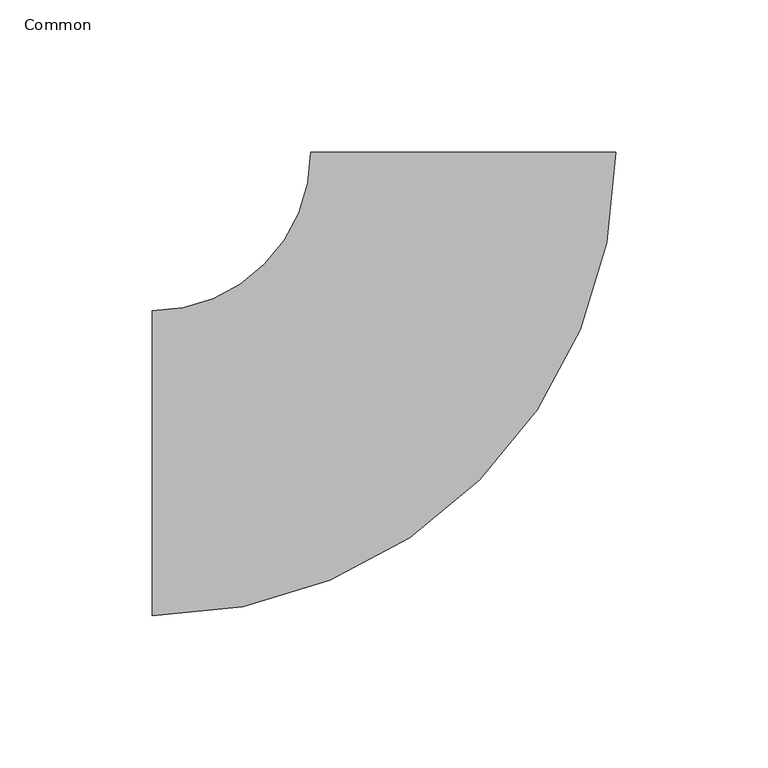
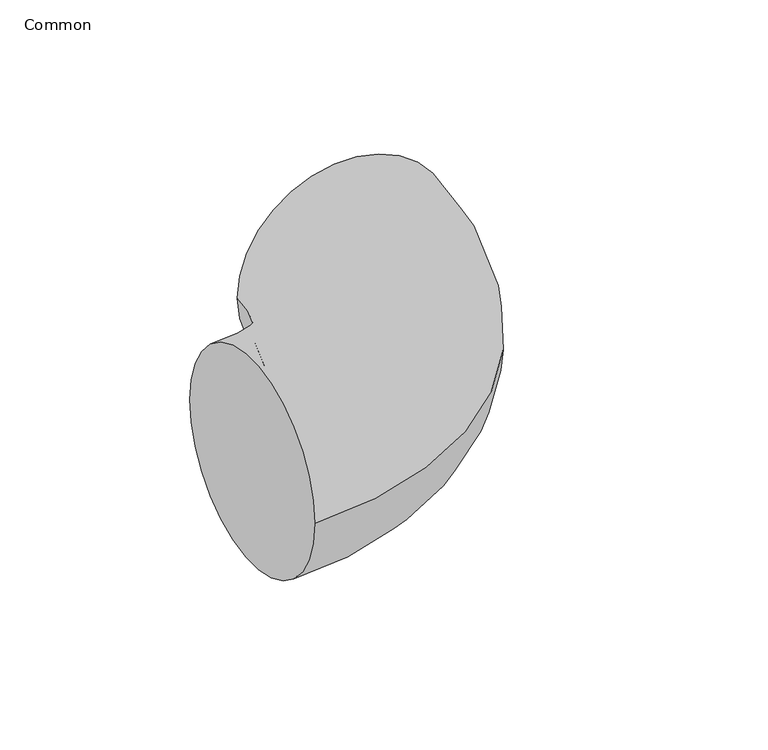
"""IFC4 building model written with IfcOpenShell, lengths in millimetres: pipe fitting geometry, 012_エルボ_冷媒管 : Common."""

from ifc_helpers import new_model, si_unit, point, frame, origin, place, context, project, spatial, circle_curve, ellipse_curve, trimmed, source, transform, mapped, element, save
from ifc_brep_helpers import plane_surface, revolved_surface, advanced_brep


def common_80912427(model_context):
    return source(origin(), model_context, "Body", "AdvancedBrep", [
        advanced_brep(
        [(-102.0, -50.0, 0.0), (-102.0, 50.0, 0.0), (49.9933572, 102.003256, 0.0), (-50.0066426, 101.9967436, 0.0)],
        [
            (0, 1, circle_curve(frame((-102.0, 0.0, 0.0), z_axis=(-1.0, 0.0, 0.0), x_axis=(0.0, 1.0, 0.0)), 50.0)),
            (1, 0, circle_curve(frame((-102.0, 0.0, 0.0), z_axis=(-1.0, 0.0, 0.0), x_axis=(0.0, 1.0, 0.0)), 50.0)),
            (2, 3, circle_curve(frame((-0.0066427, 101.9999998, 0.0), z_axis=(-6.512451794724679e-05, 0.9999999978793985, 0.0), x_axis=(-0.9999999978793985, -6.512451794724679e-05, 0.0)), 50.0)),
            (3, 2, circle_curve(frame((-0.0066427, 101.9999998, 0.0), z_axis=(-6.512451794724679e-05, 0.9999999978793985, 0.0), x_axis=(-0.9999999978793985, -6.512451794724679e-05, 0.0)), 50.0)),
            (3, 1, circle_curve(frame((-102.0, 101.9933575, 0.0), z_axis=(0.0, 0.0, -1.0), x_axis=(0.0, -1.0, 0.0)), 51.9933575)),
            (0, 2, circle_curve(frame((-102.0, 101.9933575, 0.0), z_axis=(0.0, 0.0, 1.0), x_axis=(0.0, -1.0, 0.0)), 151.9933575)),
        ],
        [
            plane_surface(frame((-102.0, 0.0, 0.0), z_axis=(-1.0, 0.0, 0.0), x_axis=(0.0, 0.0, 1.0))),
            plane_surface(frame((-0.0066427, 101.9999998, 0.0), z_axis=(-6.512451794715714e-05, 0.9999999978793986, 0.0), x_axis=(0.0, 0.0, 1.0))),
            revolved_surface(trimmed(ellipse_curve(frame((-102.0, 0.0, 0.0), z_axis=(-1.0, 0.0, 0.0), x_axis=(0.0, 1.0, 0.0)), 50.0, 50.0), [point((-102.0, -50.0, 0.0))], [point((-102.0, 50.0, 0.0))], True, "CARTESIAN"), (-102.0, 101.9933575, 0.0), (0.0, 0.0, 1.0)),
            revolved_surface(trimmed(ellipse_curve(frame((-102.0, 0.0, 0.0), z_axis=(-1.0, 0.0, 0.0), x_axis=(0.0, 1.0, 0.0)), 50.0, 50.0), [point((-102.0, 50.0, 0.0))], [point((-102.0, -50.0, 0.0))], True, "CARTESIAN"), (-102.0, 101.9933575, 0.0), (0.0, 0.0, 1.0)),
        ],
        [
            (0, [[1, 2]]),
            (1, [[3, 4]]),
            (2, [[5, -1, 6, -4]]),
            (3, [[-6, -2, -5, -3]]),
        ],
    ),
    ])


if __name__ == "__main__":
    model = new_model("IFC4")
    model_context = context("Model", 3, world=origin())
    ifc_project = project(units=[si_unit("LENGTHUNIT", "METRE", prefix="MILLI")], contexts=[model_context])
    site = spatial("IfcSite", under=ifc_project)
    building = spatial("IfcBuilding", under=site)
    placement = place(None, origin())
    common_shape = common_80912427(model_context)
    element("IfcPipeFitting", 1, ObjectType="012_エルボ_冷媒管 : Common", at=placement, inside=building, context=model_context, shape_type="MappedRepresentation", body=[
        mapped(common_shape, transform((0.0, 0.0, 0.0), x_axis=(1.0, 0.0, 0.0), y_axis=(0.0, 1.0, 0.0), z_axis=(0.0, 0.0, 1.0))),
    ])
    save(model, "model.ifc")
